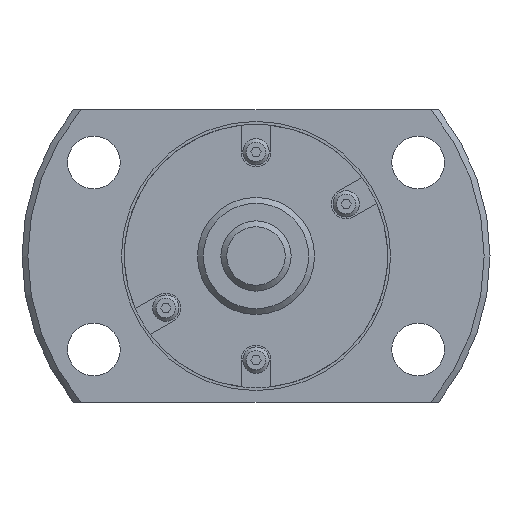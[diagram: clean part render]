
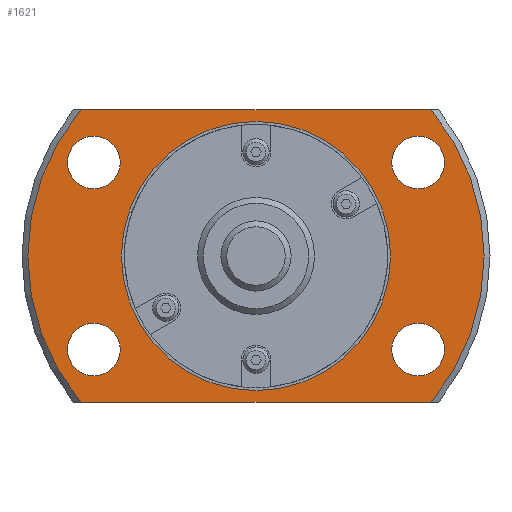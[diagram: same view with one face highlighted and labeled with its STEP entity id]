
A CAD part, left-side view. The second image highlights one B-rep face of the part: STEP entity #1621.
In plain terms, the highlighted planar face has unit normal (-1, 0, 0).
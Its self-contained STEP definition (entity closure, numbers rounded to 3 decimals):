
#108=CIRCLE('',#1776,19.5);
#129=CIRCLE('',#1805,11.25);
#130=CIRCLE('',#1807,2.25);
#131=CIRCLE('',#1808,2.25);
#132=CIRCLE('',#1809,2.25);
#133=CIRCLE('',#1810,2.25);
#134=CIRCLE('',#1811,19.5);
#308=ORIENTED_EDGE('',*,*,#683,.T.);
#309=ORIENTED_EDGE('',*,*,#684,.T.);
#310=ORIENTED_EDGE('',*,*,#685,.T.);
#311=ORIENTED_EDGE('',*,*,#686,.T.);
#312=ORIENTED_EDGE('',*,*,#640,.F.);
#313=ORIENTED_EDGE('',*,*,#687,.T.);
#314=ORIENTED_EDGE('',*,*,#688,.F.);
#315=ORIENTED_EDGE('',*,*,#689,.T.);
#316=ORIENTED_EDGE('',*,*,#682,.T.);
#640=EDGE_CURVE('',#843,#844,#108,.T.);
#682=EDGE_CURVE('',#880,#880,#129,.T.);
#683=EDGE_CURVE('',#881,#881,#130,.T.);
#684=EDGE_CURVE('',#882,#882,#131,.T.);
#685=EDGE_CURVE('',#883,#883,#132,.T.);
#686=EDGE_CURVE('',#884,#884,#133,.T.);
#687=EDGE_CURVE('',#843,#885,#992,.T.);
#688=EDGE_CURVE('',#886,#885,#134,.T.);
#689=EDGE_CURVE('',#886,#844,#993,.T.);
#843=VERTEX_POINT('',#2561);
#844=VERTEX_POINT('',#2563);
#880=VERTEX_POINT('',#2658);
#881=VERTEX_POINT('',#2661);
#882=VERTEX_POINT('',#2663);
#883=VERTEX_POINT('',#2665);
#884=VERTEX_POINT('',#2667);
#885=VERTEX_POINT('',#2669);
#886=VERTEX_POINT('',#2671);
#992=LINE('',#2668,#1114);
#993=LINE('',#2672,#1115);
#1114=VECTOR('',#2149,1000.);
#1115=VECTOR('',#2152,1000.);
#1251=EDGE_LOOP('',(#308));
#1252=EDGE_LOOP('',(#309));
#1253=EDGE_LOOP('',(#310));
#1254=EDGE_LOOP('',(#311));
#1255=EDGE_LOOP('',(#312,#313,#314,#315));
#1256=EDGE_LOOP('',(#316));
#1417=FACE_BOUND('',#1251,.T.);
#1418=FACE_BOUND('',#1252,.T.);
#1419=FACE_BOUND('',#1253,.T.);
#1420=FACE_BOUND('',#1254,.T.);
#1421=FACE_BOUND('',#1255,.T.);
#1422=FACE_BOUND('',#1256,.T.);
#1536=PLANE('',#1806);
#1621=ADVANCED_FACE('',(#1417,#1418,#1419,#1420,#1421,#1422),#1536,.F.);
#1776=AXIS2_PLACEMENT_3D('',#2562,#2061,#2062);
#1805=AXIS2_PLACEMENT_3D('',#2657,#2137,#2138);
#1806=AXIS2_PLACEMENT_3D('',#2659,#2139,#2140);
#1807=AXIS2_PLACEMENT_3D('',#2660,#2141,#2142);
#1808=AXIS2_PLACEMENT_3D('',#2662,#2143,#2144);
#1809=AXIS2_PLACEMENT_3D('',#2664,#2145,#2146);
#1810=AXIS2_PLACEMENT_3D('',#2666,#2147,#2148);
#1811=AXIS2_PLACEMENT_3D('',#2670,#2150,#2151);
#2061=DIRECTION('',(1.,0.,0.));
#2062=DIRECTION('',(0.,0.,-1.));
#2137=DIRECTION('',(1.,0.,0.));
#2138=DIRECTION('',(0.,0.,-1.));
#2139=DIRECTION('',(1.,0.,0.));
#2140=DIRECTION('',(0.,0.,-1.));
#2141=DIRECTION('',(1.,0.,0.));
#2142=DIRECTION('',(0.,0.,-1.));
#2143=DIRECTION('',(1.,0.,0.));
#2144=DIRECTION('',(0.,0.,-1.));
#2145=DIRECTION('',(1.,0.,0.));
#2146=DIRECTION('',(0.,0.,-1.));
#2147=DIRECTION('',(1.,0.,0.));
#2148=DIRECTION('',(0.,0.,-1.));
#2149=DIRECTION('',(0.,-1.,0.));
#2150=DIRECTION('',(1.,0.,0.));
#2151=DIRECTION('',(0.,0.,-1.));
#2152=DIRECTION('',(0.,1.,0.));
#2561=CARTESIAN_POINT('',(22.,14.967,-12.5));
#2562=CARTESIAN_POINT('',(22.,0.,0.));
#2563=CARTESIAN_POINT('',(22.,14.967,12.5));
#2657=CARTESIAN_POINT('',(22.,0.,0.));
#2658=CARTESIAN_POINT('',(22.,0.,-11.25));
#2659=CARTESIAN_POINT('',(22.,11.25,0.));
#2660=CARTESIAN_POINT('',(22.,-13.856,-8.));
#2661=CARTESIAN_POINT('',(22.,-13.856,-10.25));
#2662=CARTESIAN_POINT('',(22.,-13.856,8.));
#2663=CARTESIAN_POINT('',(22.,-13.856,5.75));
#2664=CARTESIAN_POINT('',(22.,13.856,-8.));
#2665=CARTESIAN_POINT('',(22.,13.856,-10.25));
#2666=CARTESIAN_POINT('',(22.,13.856,8.));
#2667=CARTESIAN_POINT('',(22.,13.856,5.75));
#2668=CARTESIAN_POINT('',(22.,11.25,-12.5));
#2669=CARTESIAN_POINT('',(22.,-14.967,-12.5));
#2670=CARTESIAN_POINT('',(22.,0.,0.));
#2671=CARTESIAN_POINT('',(22.,-14.967,12.5));
#2672=CARTESIAN_POINT('',(22.,11.25,12.5));
